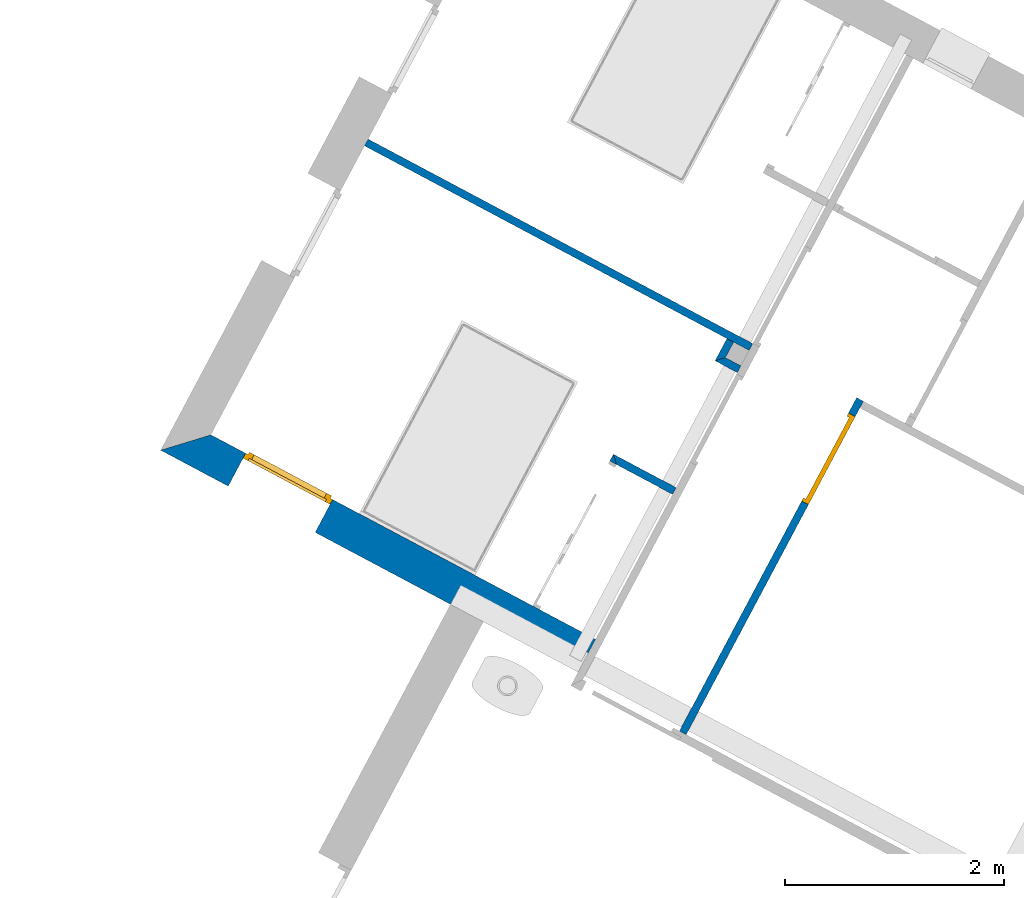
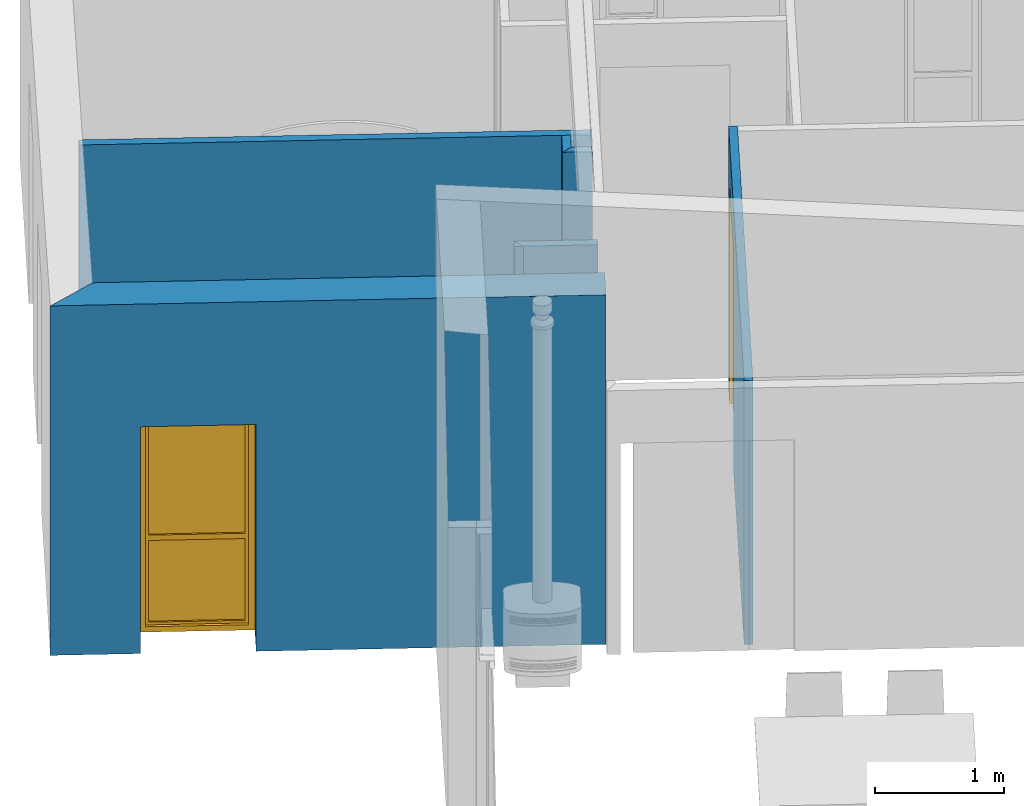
# One storey, part 5 of 27: 7 walls, 1 door, 1 window, 3 openings.
"""IFC2X3 building model written with IfcOpenShell, lengths in metres."""

from ifc_helpers import new_model, entity, si_unit, converted_unit, derived_unit, money_unit, direction, frame, origin_with_axes, origin_2d_with_axis, place, context, subcontext, project, spatial, polyline, rectangle, outline, extrude, clip, bounded_halfspace, open_shell, faceted_brep, surface_model, source, transform, mapped, material, layer, layer_set, layer_usage, type_object, element, fill, save


model = new_model("IFC2X3")

# Units and contexts
model_context = context("Model", 3, precision=1e-05, world=origin_with_axes(), true_north=direction((0.0, 1.0)))
body_context = subcontext(model_context, "Body", "Model", "MODEL_VIEW")
ifc_project = project(units=[si_unit("LENGTHUNIT", "METRE"), si_unit("AREAUNIT", "SQUARE_METRE"), si_unit("VOLUMEUNIT", "CUBIC_METRE"), converted_unit("PLANEANGLEUNIT", "DEGREE", entity("IfcPlaneAngleMeasure", 0.0174532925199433), si_unit("PLANEANGLEUNIT", "RADIAN"), dimensions=[0, 0, 0, 0, 0, 0, 0]), money_unit("CHF"), converted_unit("TIMEUNIT", "Year", entity("IfcTimeMeasure", 31557600.0), si_unit("TIMEUNIT", "SECOND"), dimensions=[0, 0, 1, 0, 0, 0, 0]), si_unit("MASSUNIT", "GRAM", prefix="KILO"), si_unit("THERMODYNAMICTEMPERATUREUNIT", "DEGREE_CELSIUS"), si_unit("LUMINOUSINTENSITYUNIT", "LUMEN"), si_unit("ENERGYUNIT", "JOULE", prefix="MEGA"), derived_unit("THERMALCONDUCTANCEUNIT", [(si_unit("POWERUNIT", "WATT"), 1), (si_unit("LENGTHUNIT", "METRE"), -1), (si_unit("THERMODYNAMICTEMPERATUREUNIT", "KELVIN"), -1)]), derived_unit("SPECIFICHEATCAPACITYUNIT", [(si_unit("ENERGYUNIT", "JOULE"), 1), (si_unit("MASSUNIT", "GRAM", prefix="KILO"), -1), (si_unit("THERMODYNAMICTEMPERATUREUNIT", "KELVIN"), -1)]), derived_unit("MASSDENSITYUNIT", [(si_unit("MASSUNIT", "GRAM", prefix="KILO"), 1), (si_unit("VOLUMEUNIT", "CUBIC_METRE"), -1)])], contexts=[model_context])

# Site, building, storey
site_placement = place(None, frame((0.0, 0.0, 0.0), z_axis=(0.0, 0.0, 1.0), x_axis=(-0.4694715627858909, -0.8829475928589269, 0.0)))
site = spatial("IfcSite", under=ifc_project, at=site_placement, Name="Site", CompositionType="ELEMENT")
building_placement = place(site_placement, origin_with_axes())
building = spatial("IfcBuilding", under=site, at=building_placement, Name="Bâtiment", CompositionType="ELEMENT")
storey_placement = place(building_placement, origin_with_axes())
storey = spatial("IfcBuildingStorey", under=building, at=storey_placement, Name="RDC", CompositionType="ELEMENT", Elevation=0.0)

# Wall, opening, window
ifc_material_1 = material(Name="Maçonnerie 290464332")
ifc_layer_1 = layer(ifc_material_1, 0.2, ventilated="UNKNOWN")
ifc_material_2 = material(Name="Isolation 272048125")
ifc_layer_2 = layer(ifc_material_2, 0.14, ventilated="UNKNOWN")
ifc_layer_set_1 = layer_set([ifc_layer_1, ifc_layer_2], Name="MUR EXT 34 0024849982")
ifc_layer_usage_1 = layer_usage(ifc_layer_set_1, "AXIS2", "POSITIVE", 0.0)
wall_type_1 = type_object("IfcWallType", Name="MUR EXT 34 0024849982 340", PredefinedType="NOTDEFINED")
wall_1_placement = place(storey_placement, frame((133.8895710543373, -840.1945991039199, 0.0), z_axis=(0.0, 0.0, 1.0), x_axis=(0.0, 1.0, 0.0)))
wall_1 = element("IfcWallStandardCase", 1, at=wall_1_placement, inside=storey, type_object=wall_type_1, material=ifc_layer_usage_1, Name="Mur-396", context=body_context, shape_type="Clipping", body=[
    clip(extrude(outline(polyline([(0.0, 0.0), (4.319999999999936, 0.0), (4.319999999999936, 0.3400000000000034), (0.3400000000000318, 0.3400000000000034), (0.0, 0.0)])), origin_with_axes(), (0.0, 0.0, 1.0), 5.0), bounded_halfspace(frame((0.0, 0.2633659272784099, 3.292074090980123), z_axis=(0.0, -0.07974522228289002, -0.9968152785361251), x_axis=(0.0, 0.9968152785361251, -0.07974522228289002)), True, origin_with_axes(), polyline([(-0.1000099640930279, -0.01), (9.00000999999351, -0.01), (9.00000999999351, 0.3500000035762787), (-0.1000099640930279, 0.3500000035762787), (-0.1000099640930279, -0.01)]))),
])
opening_1_placement = place(wall_1_placement, frame((1.150000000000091, 0.0, 0.0), z_axis=(0.0, 0.0, 1.0), x_axis=(1.0, 0.0, 0.0)))
opening_1 = element("IfcOpeningElement", 2, at=opening_1_placement, cuts=wall_1, Name="Fen-156", context=body_context, shape_type="SweptSolid", body=[
    extrude(rectangle(XDim=0.900000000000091, YDim=2.15, at=origin_2d_with_axis()), frame((0.0, -0.3400000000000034, 1.075), z_axis=(0.0, 1.0, 0.0), x_axis=(-1.0, 0.0, 0.0)), (0.0, 0.0, 1.0), 1.02),
])
window_style = type_object("IfcWindowStyle", Name="Fen à carreaux 10", ConstructionType="NOTDEFINED", OperationType="SINGLE_PANEL", ParameterTakesPrecedence=False, Sizeable=False)
shared_shape_1 = source(origin_with_axes(), body_context, "Body", "SurfaceModel", [
    faceted_brep([(-0.425, -0.05, 2.1), (-0.425, -0.02500000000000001, 2.1), (-0.4, -0.02500000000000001, 2.1), (-0.4, 0.0, 2.1), (-0.45, 0.0, 2.1), (-0.45, -0.05, 2.1), (-0.425, -0.05, 0.05000000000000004), (-0.425, -0.02500000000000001, 0.05000000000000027), (-0.4, -0.02500000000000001, 0.05000000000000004), (-0.4, 0.0, 0.05000000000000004), (-0.45, 0.0, 0.05000000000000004), (-0.45, -0.05, 0.05000000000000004)], [[[0, 1, 2, 3, 4, 5]], [[1, 0, 6, 7]], [[8, 2, 1, 7]], [[2, 8, 9, 3]], [[3, 9, 10, 4]], [[5, 4, 10, 11]], [[6, 0, 5, 11]], [[7, 6, 11, 10, 9, 8]]]),
    faceted_brep([(0.4, -0.02500000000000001, 2.1), (0.425, -0.02500000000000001, 2.1), (0.425, -0.05, 2.1), (0.45, -0.05, 2.1), (0.45, 0.0, 2.1), (0.4, 0.0, 2.1), (0.4, -0.02500000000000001, 0.05000000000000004), (0.425, -0.02500000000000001, 0.05000000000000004), (0.425, -0.05, 0.05000000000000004), (0.45, -0.05, 0.05000000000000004), (0.45, 0.0, 0.05000000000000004), (0.4, 0.0, 0.05000000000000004)], [[[0, 1, 2, 3, 4, 5]], [[1, 0, 6, 7]], [[8, 2, 1, 7]], [[2, 8, 9, 3]], [[9, 10, 4, 3]], [[4, 10, 11, 5]], [[6, 0, 5, 11]], [[7, 6, 11, 10, 9, 8]]]),
    faceted_brep([(-0.425, -0.05, 2.1), (-0.425, -0.05, 2.125), (0.425, -0.05, 2.125), (0.425, -0.05, 2.1), (0.45, -0.05, 2.1), (0.45, -0.05, 2.15), (-0.45, -0.05, 2.15), (-0.45, -0.05, 2.1), (-0.425, -0.02500000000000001, 2.1), (-0.425, -0.02500000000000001, 2.125), (0.425, -0.02500000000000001, 2.125), (0.425, -0.02500000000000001, 2.1), (0.4, -0.02500000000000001, 2.1), (0.4, 0.0, 2.1), (0.45, 0.0, 2.1), (0.45, 0.0, 2.15), (-0.45, 0.0, 2.15), (-0.45, 0.0, 2.1), (-0.4, 0.0, 2.1), (-0.4, -0.02500000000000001, 2.1)], [[[0, 1, 2, 3, 4, 5, 6, 7]], [[1, 0, 8, 9]], [[2, 1, 9, 10]], [[3, 2, 10, 11]], [[11, 12, 13, 14, 4, 3]], [[4, 14, 15, 5]], [[5, 15, 16, 6]], [[6, 16, 17, 7]], [[8, 0, 7, 17, 18, 19]], [[12, 11, 10, 9, 8, 19]], [[12, 19, 18, 13]], [[18, 17, 16, 15, 14, 13]]]),
    faceted_brep([(0.4, -0.02500000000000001, 0.05000000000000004), (0.425, -0.02500000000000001, 0.05000000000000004), (0.425, -0.05, 0.05000000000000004), (0.45, -0.05, 0.05000000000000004), (0.45, 0.0, 0.05000000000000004), (0.4, 0.0, 0.05000000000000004), (-0.4, -0.02500000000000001, 0.05000000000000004), (-0.425, -0.02500000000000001, 0.05000000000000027), (-0.425, -0.02500000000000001, 0.02499999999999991), (0.425, -0.02500000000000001, 0.02499999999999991), (0.425, -0.05, 0.02499999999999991), (-0.425, -0.05, 0.02499999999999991), (-0.425, -0.05, 0.05000000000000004), (-0.45, -0.05, 0.05000000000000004), (-0.45, -0.05, 0.0), (0.45, -0.05, 0.0), (0.45, 0.0, 0.0), (-0.45, 0.0, 0.0), (-0.45, 0.0, 0.05000000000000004), (-0.4, 0.0, 0.05000000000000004)], [[[0, 1, 2, 3, 4, 5]], [[1, 0, 6, 7, 8, 9]], [[10, 2, 1, 9]], [[11, 12, 13, 14, 15, 3, 2, 10]], [[15, 16, 4, 3]], [[16, 17, 18, 19, 5, 4]], [[6, 0, 5, 19]], [[7, 6, 19, 18, 13, 12]], [[7, 12, 11, 8]], [[11, 10, 9, 8]], [[13, 18, 17, 14]], [[14, 17, 16, 15]]]),
    surface_model("IfcShellBasedSurfaceModel", [(-0.375, -0.04, 0.07500000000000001), (-0.375, -0.04, 0.8500000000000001), (0.375, -0.04, 0.8500000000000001), (0.375, -0.04, 0.07500000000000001)], [open_shell([[[0, 1, 2, 3]]])]),
    surface_model("IfcShellBasedSurfaceModel", [(-0.375, -0.06, 0.07500000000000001), (0.375, -0.06, 0.07500000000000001), (0.375, -0.06, 0.8500000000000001), (-0.375, -0.06, 0.8500000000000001)], [open_shell([[[0, 1, 2, 3]]])]),
    surface_model("IfcShellBasedSurfaceModel", [(-0.375, -0.04, 0.9), (-0.375, -0.04, 2.075), (0.375, -0.04, 2.075), (0.375, -0.04, 0.9)], [open_shell([[[0, 1, 2, 3]]])]),
    surface_model("IfcShellBasedSurfaceModel", [(-0.375, -0.06, 0.9), (0.375, -0.06, 0.9), (0.375, -0.06, 2.075), (-0.375, -0.06, 2.075)], [open_shell([[[0, 1, 2, 3]]])]),
    faceted_brep([(-0.375, -0.02500000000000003, 0.07500000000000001), (-0.375, -0.02500000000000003, 2.075), (-0.375, -0.07500000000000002, 2.075), (-0.375, -0.07500000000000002, 0.07500000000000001), (-0.425, -0.02500000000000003, 0.07500000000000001), (-0.425, -0.02500000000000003, 2.075), (-0.425, -0.07500000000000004, 2.075), (-0.425, -0.07500000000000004, 0.07500000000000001)], [[[0, 1, 2, 3]], [[0, 4, 5, 1]], [[1, 5, 6, 2]], [[3, 2, 6, 7]], [[4, 0, 3, 7]], [[5, 4, 7, 6]]]),
    faceted_brep([(0.425, -0.02499999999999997, 0.07500000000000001), (0.425, -0.02499999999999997, 2.075), (0.425, -0.07499999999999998, 2.075), (0.425, -0.07499999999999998, 0.07500000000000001), (0.375, -0.02499999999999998, 0.07500000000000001), (0.375, -0.02499999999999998, 2.075), (0.375, -0.07499999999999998, 2.075), (0.375, -0.07499999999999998, 0.07500000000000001)], [[[0, 1, 2, 3]], [[0, 4, 5, 1]], [[1, 5, 6, 2]], [[3, 2, 6, 7]], [[4, 0, 3, 7]], [[5, 4, 7, 6]]]),
    faceted_brep([(-0.375, -0.02500000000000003, 0.9), (-0.375, -0.02500000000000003, 0.85), (-0.375, -0.07500000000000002, 0.85), (-0.375, -0.07500000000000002, 0.9), (0.375, -0.02499999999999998, 0.9), (0.375, -0.02499999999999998, 0.85), (0.375, -0.07499999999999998, 0.85), (0.375, -0.07499999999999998, 0.9)], [[[0, 1, 2, 3]], [[0, 4, 5, 1]], [[1, 5, 6, 2]], [[3, 2, 6, 7]], [[4, 0, 3, 7]], [[5, 4, 7, 6]]]),
    faceted_brep([(-0.425, -0.02500000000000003, 0.025), (0.425, -0.02499999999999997, 0.025), (0.425, -0.07499999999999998, 0.025), (-0.425, -0.07500000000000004, 0.025), (-0.425, -0.02500000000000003, 0.07500000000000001), (-0.375, -0.02500000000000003, 0.07500000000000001), (0.375, -0.02499999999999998, 0.07500000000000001), (0.425, -0.02499999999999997, 0.07500000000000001), (0.425, -0.07499999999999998, 0.07500000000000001), (0.375, -0.07499999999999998, 0.07500000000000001), (-0.375, -0.07500000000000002, 0.07500000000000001), (-0.425, -0.07500000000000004, 0.07500000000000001)], [[[0, 1, 2, 3]], [[0, 4, 5, 6, 7, 1]], [[1, 7, 8, 2]], [[3, 2, 8, 9, 10, 11]], [[4, 0, 3, 11]], [[5, 4, 11, 10]], [[6, 5, 10, 9]], [[7, 6, 9, 8]]]),
    faceted_brep([(-0.425, -0.02500000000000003, 2.075), (-0.375, -0.02500000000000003, 2.075), (-0.375, -0.07500000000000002, 2.075), (-0.425, -0.07500000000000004, 2.075), (-0.425, -0.02500000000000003, 2.125), (0.425, -0.02499999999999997, 2.125), (0.425, -0.02499999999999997, 2.075), (0.375, -0.02499999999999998, 2.075), (0.375, -0.07499999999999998, 2.075), (0.425, -0.07499999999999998, 2.075), (0.425, -0.07499999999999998, 2.125), (-0.425, -0.07500000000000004, 2.125)], [[[0, 1, 2, 3]], [[0, 4, 5, 6, 7, 1]], [[1, 7, 8, 2]], [[3, 2, 8, 9, 10, 11]], [[4, 0, 3, 11]], [[5, 4, 11, 10]], [[6, 5, 10, 9]], [[7, 6, 9, 8]]]),
])
window_placement = place(opening_1_placement, frame((0.4499999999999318, 0.0, 0.0), z_axis=(0.0, 0.0, 1.0), x_axis=(-1.0, 0.0, 0.0)))
window = element("IfcWindow", 3, at=window_placement, inside=storey, type_object=window_style, Name="Fen-156", OverallHeight=2.15, OverallWidth=0.9, context=body_context, shape_type="MappedRepresentation", body=[
    mapped(shared_shape_1, transform((0.4500000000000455, -0.289999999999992, 0.0))),
])
fill(opening_1, window)

# Walls
ifc_material_3 = material(Name="Isolation 269295175")
ifc_layer_3 = layer(ifc_material_3, 0.07, ventilated="UNKNOWN")
ifc_layer_set_2 = layer_set([ifc_layer_3], Name="CLOISON 7 0024849982")
ifc_layer_usage_2 = layer_usage(ifc_layer_set_2, "AXIS2", "POSITIVE", 0.0)
wall_type_2 = type_object("IfcWallType", Name="CLOISON 7 0024849982 70", PredefinedType="NOTDEFINED")
wall_2_placement = place(storey_placement, frame((130.7195710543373, -836.0345991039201, 0.0), z_axis=(0.0, 0.0, 1.0), x_axis=(-1.0, 0.0, 0.0)))
element("IfcWallStandardCase", 4, at=wall_2_placement, inside=storey, type_object=wall_type_2, material=ifc_layer_usage_2, Name="Mur-396", context=body_context, shape_type="SweptSolid", body=[
    extrude(outline(polyline([(0.0, 0.0), (0.160000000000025, 0.0), (0.160000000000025, 0.07000000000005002), (-0.06999999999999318, 0.07000000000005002), (0.0, 0.0)])), origin_with_axes(), (0.0, 0.0, 1.0), 2.5),
])
ifc_layer_usage_3 = layer_usage(ifc_layer_set_2, "AXIS2", "POSITIVE", 0.0)
wall_3_placement = place(storey_placement, frame((130.7195710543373, -835.8045991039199, 0.0), z_axis=(0.0, 0.0, 1.0), x_axis=(0.0, -1.0, 0.0)))
element("IfcWallStandardCase", 5, at=wall_3_placement, inside=storey, type_object=wall_type_2, material=ifc_layer_usage_3, Name="Mur-395", context=body_context, shape_type="SweptSolid", body=[
    extrude(outline(polyline([(0.07000000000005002, 0.0), (0.2300000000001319, 0.0), (0.3000000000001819, 0.06999999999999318), (0.07000000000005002, 0.06999999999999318), (0.07000000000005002, 0.0)])), origin_with_axes(), (0.0, 0.0, 1.0), 2.5),
])
ifc_layer_usage_4 = layer_usage(ifc_layer_set_2, "AXIS2", "NEGATIVE", 0.0)
wall_4_placement = place(storey_placement, frame((130.5595710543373, -835.8045991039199, 0.0), z_axis=(0.0, 0.0, 1.0), x_axis=(0.0, -1.0, 0.0)))
element("IfcWallStandardCase", 6, at=wall_4_placement, inside=storey, type_object=wall_type_2, material=ifc_layer_usage_4, Name="Mur-396", context=body_context, shape_type="SweptSolid", body=[
    extrude(outline(polyline([(0.07000000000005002, -0.06999999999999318), (4.049999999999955, -0.06999999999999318), (4.049999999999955, 0.0), (0.07000000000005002, 0.0), (0.07000000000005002, -0.06999999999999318)])), origin_with_axes(), (0.0, 0.0, 1.0), 2.5),
])

# Wall, opening, door
ifc_layer_usage_5 = layer_usage(ifc_layer_set_2, "AXIS2", "NEGATIVE", 0.0)
wall_5_placement = place(storey_placement, frame((130.4795710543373, -834.73459910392, 0.0), z_axis=(0.0, 0.0, 1.0), x_axis=(1.0, 0.0, 0.0)))
wall_5 = element("IfcWallStandardCase", 7, at=wall_5_placement, inside=storey, type_object=wall_type_2, material=ifc_layer_usage_5, Name="Mur-395", context=body_context, shape_type="SweptSolid", body=[
    extrude(outline(polyline([(0.0, -0.07000000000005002), (3.450000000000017, -0.07000000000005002), (3.450000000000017, 0.0), (0.0, 0.0), (0.0, -0.07000000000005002)])), origin_with_axes(), (0.0, 0.0, 1.0), 2.5),
])
opening_2_placement = place(wall_5_placement, frame((0.6147504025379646, 0.0, 0.0), z_axis=(0.0, 0.0, 1.0), x_axis=(1.0, 0.0, 0.0)))
opening_2 = element("IfcOpeningElement", 8, at=opening_2_placement, cuts=wall_5, Name="porte 76", context=body_context, shape_type="SweptSolid", body=[
    extrude(rectangle(XDim=0.910000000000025, YDim=2.09, at=origin_2d_with_axis()), frame((0.0, -0.07000000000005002, 1.045), z_axis=(0.0, -1.0, 0.0), x_axis=(-1.0, 0.0, 0.0)), (0.0, 0.0, -1.0), 0.21),
])
door_style = type_object("IfcDoorStyle", Name="P_int simple à carreaux 10", ConstructionType="NOTDEFINED", OperationType="SINGLE_SWING_LEFT", ParameterTakesPrecedence=False, Sizeable=False)
shared_shape_2 = source(origin_with_axes(), body_context, "Body", "Brep", [
    faceted_brep([(0.423, -0.044, 0.0), (0.423, -0.07, 0.0), (0.423, -0.07, 2.058), (0.423, -0.044, 2.058), (0.4350000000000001, -0.044, 0.0), (0.4350000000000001, 0.0, 0.0), (0.4550000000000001, 0.0, 0.0), (0.4550000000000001, -0.07, 0.0), (0.4550000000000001, -0.07, 2.058), (0.4350000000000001, -0.044, 2.058), (0.4550000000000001, 0.0, 2.058), (0.4350000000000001, 0.0, 2.058)], [[[0, 1, 2, 3]], [[4, 5, 6, 7, 1, 0]], [[2, 1, 7, 8]], [[9, 3, 2, 8, 10, 11]], [[9, 4, 0, 3]], [[11, 5, 4, 9]], [[11, 10, 6, 5]], [[6, 10, 8, 7]]]),
    faceted_brep([(-0.4350000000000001, -0.044, 2.058), (-0.4350000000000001, 0.0, 2.058), (-0.4550000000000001, 0.0, 2.058), (-0.4550000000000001, -0.07, 2.058), (-0.423, -0.07, 2.058), (-0.423, -0.044, 2.058), (-0.4350000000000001, -0.044, 0.0), (-0.4350000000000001, 0.0, 0.0), (-0.4550000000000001, 0.0, 0.0), (-0.4550000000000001, -0.07, 0.0), (-0.423, -0.07, 0.0), (-0.423, -0.044, 0.0)], [[[0, 1, 2, 3, 4, 5]], [[0, 6, 7, 1]], [[7, 8, 2, 1]], [[2, 8, 9, 3]], [[3, 9, 10, 4]], [[5, 4, 10, 11]], [[5, 11, 6, 0]], [[6, 11, 10, 9, 8, 7]]]),
    faceted_brep([(0.4350000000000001, 0.0, 2.07), (-0.4350000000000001, 0.0, 2.07), (-0.4350000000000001, 0.0, 2.058), (-0.455, 0.0, 2.058), (-0.455, 0.0, 2.09), (0.455, 0.0, 2.09), (0.455, 0.0, 2.058), (0.4350000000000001, 0.0, 2.058), (0.4350000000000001, -0.044, 2.07), (-0.4350000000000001, -0.044, 2.07), (-0.4350000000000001, -0.044, 2.058), (-0.423, -0.044, 2.058), (-0.423, -0.07, 2.058), (-0.455, -0.07, 2.058), (-0.455, -0.07, 2.09), (0.455, -0.07, 2.09), (0.455, -0.07, 2.058), (0.4350000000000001, -0.044, 2.058), (0.423, -0.07, 2.058), (0.423, -0.044, 2.058)], [[[0, 1, 2, 3, 4, 5, 6, 7]], [[0, 8, 9, 1]], [[1, 9, 10, 2]], [[10, 11, 12, 13, 3, 2]], [[4, 3, 13, 14]], [[5, 4, 14, 15]], [[6, 5, 15, 16]], [[17, 7, 6, 16, 18, 19]], [[7, 17, 8, 0]], [[10, 9, 8, 17, 19, 11]], [[19, 18, 12, 11]], [[12, 18, 16, 15, 14, 13]]]),
    faceted_brep([(0.1, -0.044, 0.0), (0.435, -0.044, 0.0), (0.435, -0.04400000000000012, 2.07), (0.1, -0.04400000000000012, 2.07), (0.1, 0.0, 0.0), (0.435, 0.0, 0.0), (0.435, 0.0, 2.07), (0.1, 0.0, 2.07)], [[[0, 1, 2, 3]], [[4, 5, 1, 0]], [[1, 5, 6, 2]], [[3, 2, 6, 7]], [[7, 4, 0, 3]], [[7, 6, 5, 4]]]),
    faceted_brep([(-0.1, 0.0, 2.07), (-0.435, 0.0, 2.07), (-0.435, -0.04400000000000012, 2.07), (-0.1, -0.04400000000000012, 2.07), (-0.1, 0.0, 0.0), (-0.435, 0.0, 0.0), (-0.435, -0.044, 0.0), (-0.1, -0.044, 0.0)], [[[0, 1, 2, 3]], [[4, 5, 1, 0]], [[2, 1, 5, 6]], [[3, 2, 6, 7]], [[7, 4, 0, 3]], [[7, 6, 5, 4]]]),
    faceted_brep([(0.1, 0.0, 1.87), (0.1, 0.0, 2.07), (0.1, -0.044, 2.07), (0.1, -0.044, 1.87), (-0.1, 0.0, 1.87), (-0.1, 0.0, 2.07), (-0.1, -0.044, 2.07), (-0.1, -0.044, 1.87)], [[[0, 1, 2, 3]], [[0, 4, 5, 1]], [[1, 5, 6, 2]], [[3, 2, 6, 7]], [[4, 0, 3, 7]], [[5, 4, 7, 6]]]),
    faceted_brep([(0.1, 0.0, 1.67), (0.1, 0.0, 1.87), (0.1, -0.044, 1.87), (0.1, -0.044, 1.67), (-0.1, 0.0, 1.67), (-0.1, 0.0, 1.87), (-0.1, -0.044, 1.87), (-0.1, -0.044, 1.67)], [[[0, 1, 2, 3]], [[0, 4, 5, 1]], [[1, 5, 6, 2]], [[3, 2, 6, 7]], [[4, 0, 3, 7]], [[5, 4, 7, 6]]]),
    faceted_brep([(0.1, 0.0, 1.47), (0.1, 0.0, 1.67), (0.1, -0.044, 1.67), (0.1, -0.044, 1.47), (-0.1, 0.0, 1.47), (-0.1, 0.0, 1.67), (-0.1, -0.044, 1.67), (-0.1, -0.044, 1.47)], [[[0, 1, 2, 3]], [[0, 4, 5, 1]], [[1, 5, 6, 2]], [[3, 2, 6, 7]], [[4, 0, 3, 7]], [[5, 4, 7, 6]]]),
    faceted_brep([(0.1, 0.0, 1.27), (0.1, 0.0, 1.47), (0.1, -0.044, 1.47), (0.1, -0.044, 1.27), (-0.1, 0.0, 1.27), (-0.1, 0.0, 1.47), (-0.1, -0.044, 1.47), (-0.1, -0.044, 1.27)], [[[0, 1, 2, 3]], [[0, 4, 5, 1]], [[1, 5, 6, 2]], [[3, 2, 6, 7]], [[4, 0, 3, 7]], [[5, 4, 7, 6]]]),
    faceted_brep([(0.1, 0.0, 1.07), (0.1, 0.0, 1.27), (0.1, -0.044, 1.27), (0.1, -0.044, 1.07), (-0.1, 0.0, 1.07), (-0.1, 0.0, 1.27), (-0.1, -0.044, 1.27), (-0.1, -0.044, 1.07)], [[[0, 1, 2, 3]], [[0, 4, 5, 1]], [[1, 5, 6, 2]], [[3, 2, 6, 7]], [[4, 0, 3, 7]], [[5, 4, 7, 6]]]),
    faceted_brep([(0.1, 0.0, 0.8700000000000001), (0.1, 0.0, 1.07), (0.1, -0.044, 1.07), (0.1, -0.044, 0.8700000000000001), (-0.1, 0.0, 0.8700000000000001), (-0.1, 0.0, 1.07), (-0.1, -0.044, 1.07), (-0.1, -0.044, 0.8700000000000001)], [[[0, 1, 2, 3]], [[0, 4, 5, 1]], [[1, 5, 6, 2]], [[3, 2, 6, 7]], [[4, 0, 3, 7]], [[5, 4, 7, 6]]]),
    faceted_brep([(0.1, 0.0, 0.6700000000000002), (0.1, 0.0, 0.8700000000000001), (0.1, -0.044, 0.8700000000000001), (0.1, -0.044, 0.6700000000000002), (-0.1, 0.0, 0.6700000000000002), (-0.1, 0.0, 0.8700000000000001), (-0.1, -0.044, 0.8700000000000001), (-0.1, -0.044, 0.6700000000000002)], [[[0, 1, 2, 3]], [[0, 4, 5, 1]], [[1, 5, 6, 2]], [[3, 2, 6, 7]], [[4, 0, 3, 7]], [[5, 4, 7, 6]]]),
    faceted_brep([(0.1, 0.0, 0.4700000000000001), (0.1, 0.0, 0.6700000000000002), (0.1, -0.044, 0.6700000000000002), (0.1, -0.044, 0.4700000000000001), (-0.1, 0.0, 0.4700000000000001), (-0.1, 0.0, 0.6700000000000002), (-0.1, -0.044, 0.6700000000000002), (-0.1, -0.044, 0.4700000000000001)], [[[0, 1, 2, 3]], [[0, 4, 5, 1]], [[1, 5, 6, 2]], [[3, 2, 6, 7]], [[4, 0, 3, 7]], [[5, 4, 7, 6]]]),
    faceted_brep([(0.1, 0.0, 0.2700000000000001), (0.1, 0.0, 0.4700000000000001), (0.1, -0.044, 0.4700000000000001), (0.1, -0.044, 0.2700000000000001), (-0.1, 0.0, 0.2700000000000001), (-0.1, 0.0, 0.4700000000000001), (-0.1, -0.044, 0.4700000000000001), (-0.1, -0.044, 0.2700000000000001)], [[[0, 1, 2, 3]], [[0, 4, 5, 1]], [[1, 5, 6, 2]], [[3, 2, 6, 7]], [[4, 0, 3, 7]], [[5, 4, 7, 6]]]),
    faceted_brep([(0.1, 0.0, 0.07000000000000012), (0.1, 0.0, 0.2700000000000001), (0.1, -0.044, 0.2700000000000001), (0.1, -0.044, 0.07000000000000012), (-0.1, 0.0, 0.07000000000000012), (-0.1, 0.0, 0.2700000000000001), (-0.1, -0.044, 0.2700000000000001), (-0.1, -0.044, 0.07000000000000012)], [[[0, 1, 2, 3]], [[0, 4, 5, 1]], [[1, 5, 6, 2]], [[3, 2, 6, 7]], [[4, 0, 3, 7]], [[5, 4, 7, 6]]]),
    faceted_brep([(0.1, -0.044, 0.0), (0.1, -0.044, 0.07000000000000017), (-0.1, -0.044, 0.07000000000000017), (-0.1, -0.044, 0.0), (0.1, 0.0, 0.0), (0.1, 0.0, 0.07000000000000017), (-0.1, 0.0, 0.07000000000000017), (-0.1, 0.0, 0.0)], [[[0, 1, 2, 3]], [[4, 5, 1, 0]], [[1, 5, 6, 2]], [[3, 2, 6, 7]], [[7, 4, 0, 3]], [[7, 6, 5, 4]]]),
])
door_placement = place(opening_2_placement, frame((-0.4549999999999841, 0.0, 0.0), z_axis=(0.0, 0.0, 1.0), x_axis=(1.0, 0.0, 0.0)))
door = element("IfcDoor", 9, at=door_placement, inside=storey, type_object=door_style, Name="porte 76", OverallHeight=2.09, OverallWidth=0.91, context=body_context, shape_type="MappedRepresentation", body=[
    mapped(shared_shape_2, transform((0.4550000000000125, 0.0, 0.0))),
])
fill(opening_2, door)

# Wall, opening
ifc_layer_usage_6 = layer_usage(ifc_layer_set_2, "AXIS2", "NEGATIVE", 0.0)
wall_6_placement = place(storey_placement, frame((132.0495710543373, -836.4545991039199, 0.0), z_axis=(0.0, 0.0, 1.0), x_axis=(1.0, 0.0, 0.0)))
wall_6 = element("IfcWallStandardCase", 10, at=wall_6_placement, inside=storey, type_object=wall_type_2, material=ifc_layer_usage_6, Name="Mur-396", context=body_context, shape_type="SweptSolid", body=[
    extrude(outline(polyline([(-0.06999999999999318, -0.07000000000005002), (1.5, -0.07000000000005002), (1.5, 0.0), (0.0, 0.0), (-0.06999999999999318, -0.07000000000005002)])), origin_with_axes(), (0.0, 0.0, 1.0), 2.5),
])
opening_3_placement = place(wall_6_placement, frame((0.75, 0.0, 0.0), z_axis=(0.0, 0.0, 1.0), x_axis=(1.0, 0.0, 0.0)))
element("IfcOpeningElement", 11, at=opening_3_placement, cuts=wall_6, Name="porte 77", context=body_context, shape_type="SweptSolid", body=[
    extrude(rectangle(XDim=1.5, YDim=2.5, at=origin_2d_with_axis()), frame((0.0, -0.07000000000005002, 1.25), z_axis=(0.0, 1.0, 0.0), x_axis=(1.0, 0.0, 0.0)), (0.0, 0.0, 1.0), 0.21),
])

# Wall
ifc_layer_usage_7 = layer_usage(ifc_layer_set_2, "AXIS2", "NEGATIVE", 0.0)
wall_7_placement = place(storey_placement, frame((132.0495710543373, -835.8045991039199, 0.0), z_axis=(0.0, 0.0, 1.0), x_axis=(0.0, -1.0, 0.0)))
element("IfcWallStandardCase", 12, at=wall_7_placement, inside=storey, type_object=wall_type_2, material=ifc_layer_usage_7, Name="Mur-395", context=body_context, shape_type="SweptSolid", body=[
    extrude(outline(polyline([(0.07000000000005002, -0.06999999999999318), (0.7200000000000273, -0.06999999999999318), (0.6499999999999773, 0.0), (0.07000000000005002, 0.0), (0.07000000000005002, -0.06999999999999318)])), origin_with_axes(), (0.0, 0.0, 1.0), 2.5),
])

save(model, "model.ifc")
